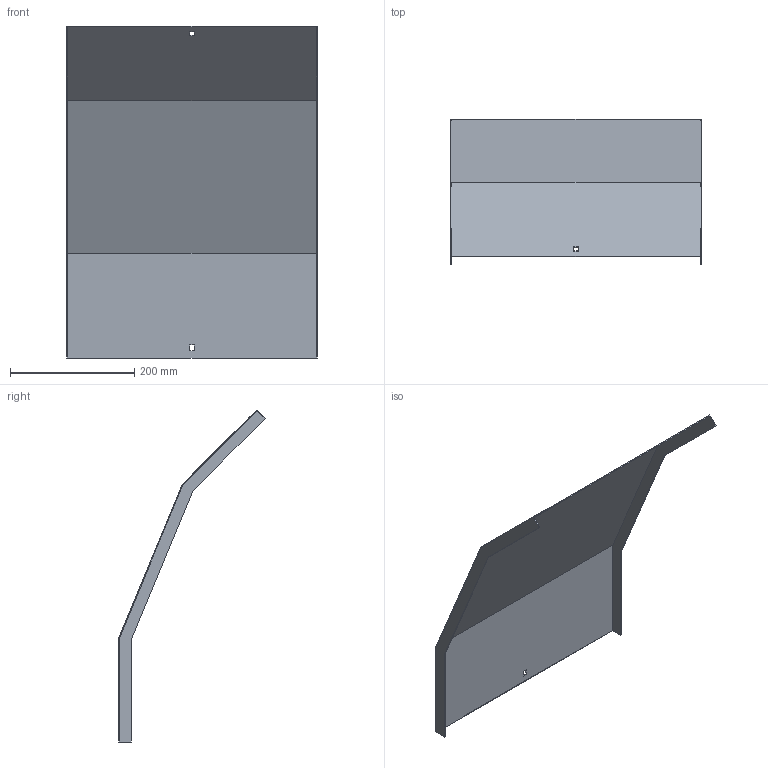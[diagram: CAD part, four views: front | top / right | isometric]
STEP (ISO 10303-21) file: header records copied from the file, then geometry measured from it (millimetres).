
FILE_DESCRIPTION (( 'STEP AP214' ), '1' );
FILE_NAME ('A2_34N3C400.step', '2025-02-21T10:34:19', ( '' ), ( '' ), 'SwSTEP 2.0', 'SolidWorks 2023', '' );
FILE_SCHEMA (( 'AUTOMOTIVE_DESIGN' ));
Length unit declared in the file: millimetre
Products named in the file (1): A2_34N3C400
Bounding box: 403 x 235.79 x 535.1 mm (x, y, z)
Volume: 398231.6 mm3; surface area: 534157.3 mm2
Topology: 1 solids, 1 shells, 26 faces, 72 edges, 48 vertices
Faces by surface type: plane 26
Entity records: 847 total; most frequent: CARTESIAN_POINT 147, ORIENTED_EDGE 144, DIRECTION 126, LINE 72, EDGE_CURVE 72, VECTOR 72, VERTEX_POINT 48, EDGE_LOOP 30
